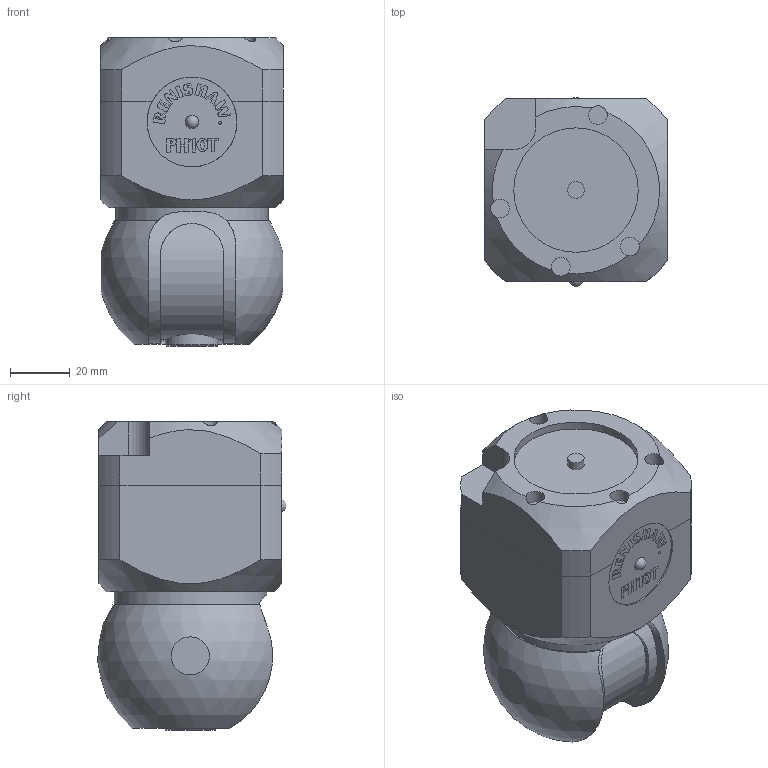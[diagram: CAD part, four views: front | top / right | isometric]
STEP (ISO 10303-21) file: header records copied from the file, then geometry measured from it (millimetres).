
FILE_DESCRIPTION(/* description */ (''),/* implementation_level */ '2;1');
FILE_NAME(/* name */ 'LA-1025-1520#-B.stp',/* time_stamp */ '2013-01-03T11:43:40+00:00',/* author */ (''),/* organization */ (''),/* preprocessor_version */ 'ST-DEVELOPER v11',/* originating_system */ 'SIEMENS PLM Software NX 7.5',/* authorisation */ '');
FILE_SCHEMA (('AUTOMOTIVE_DESIGN { 1 0 10303 214 1 1 1 1 }'));
Length unit declared in the file: millimetre
Products named in the file (1): rt130E571g60
Bounding box: 61 x 62.99 x 102.84 mm (x, y, z)
Volume: 301594.8 mm3; surface area: 46972.3 mm2
Topology: 3 solids, 3 shells, 93 faces, 338 edges, 277 vertices
Faces by surface type: plane 58, cylinder 30, cone 3, sphere 2
Full cylindrical faces by diameter (mm): 5.5 x1, 6.25 x4, 8.15 x1, 17.8 x1, 30 x2, 41.52 x1, 45 x2, 50.95 x1, 52.85 x1
Entity records: 4600 total; most frequent: CARTESIAN_POINT 1206, ORIENTED_EDGE 618, DIRECTION 451, EDGE_CURVE 309, VERTEX_POINT 265, AXIS2_PLACEMENT_3D 164, EDGE_LOOP 136, LINE 123
